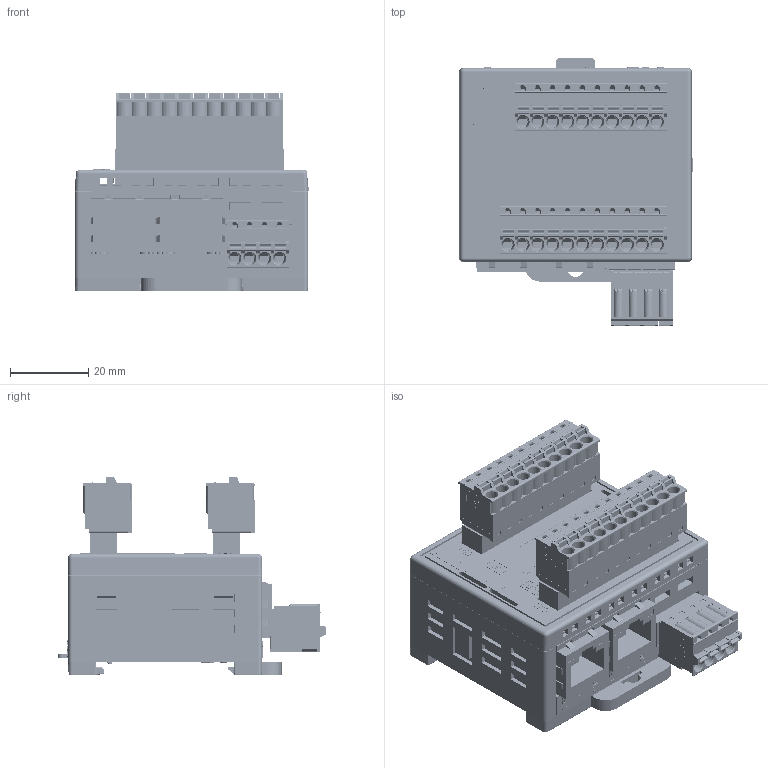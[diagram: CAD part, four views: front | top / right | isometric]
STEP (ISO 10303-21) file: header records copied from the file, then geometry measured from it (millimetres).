
FILE_DESCRIPTION((''),'2;1');
FILE_NAME('CTCBP88W','2026-05-11T14:49:07',('gijyu181'),(''),'CREO PARAMETRIC BY PTC INC, 2018050','CREO PARAMETRIC BY PTC INC, 2018050','');
FILE_SCHEMA(('CONFIG_CONTROL_DESIGN','SHAPE_APPEARANCE_LAYERS_GROUPS'));
Products named in the file (1): CTCBP88W
Bounding box: 59.75 x 68.55 x 50.7 mm (x, y, z)
Volume: 71055.7 mm3; surface area: 53369.5 mm2
Topology: 1 solids, 53 shells, 9794 faces, 27394 edges, 18010 vertices
Faces by surface type: plane 7187, cylinder 1595, extrusion 544, cone 274, sphere 94, torus 76, bspline 24
Entity records: 426415 total; most frequent: CARTESIAN_POINT 78698, ORIENTED_EDGE 53478, DIRECTION 47046, EDGE_CURVE 27380, VECTOR 22220, PRESENTATION_STYLE_ASSIGNMENT 21683, LINE 21676, STYLED_ITEM 18457
